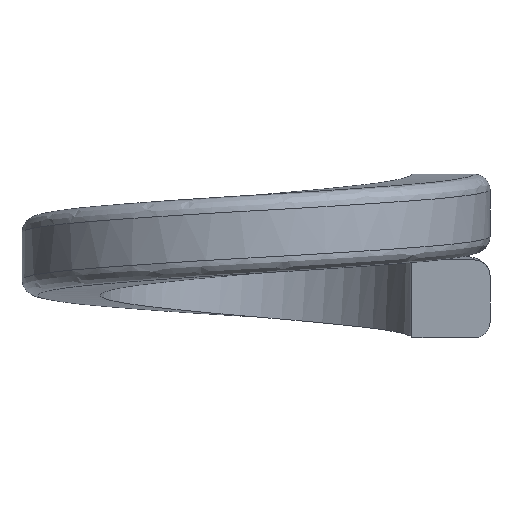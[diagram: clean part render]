
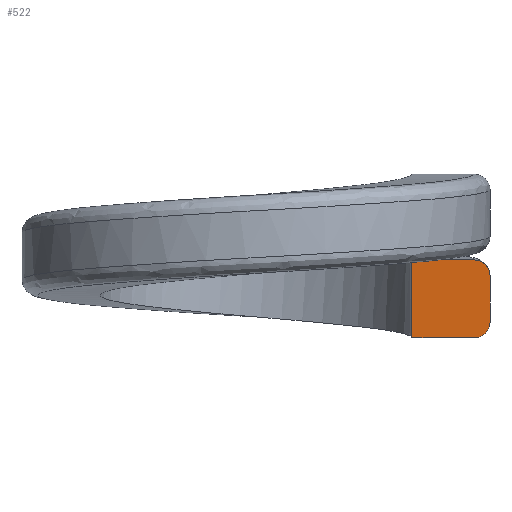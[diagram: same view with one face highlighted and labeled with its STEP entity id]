
A CAD part, top view. The second image highlights one B-rep face of the part: STEP entity #522.
In plain terms, the highlighted planar face has unit normal (0, -0.07, 0.998).
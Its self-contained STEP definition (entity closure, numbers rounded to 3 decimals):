
#89 = PLANE ( 'NONE',  #331 ) ;
#101 = DIRECTION ( 'NONE',  ( 0., 0.998, 0.07 ) ) ;
#116 = CARTESIAN_POINT ( 'NONE',  ( 2.798, -0.596, 0.035 ) ) ;
#122 = EDGE_CURVE ( 'NONE', #530, #1041, #560, .T. ) ;
#163 = VECTOR ( 'NONE', #101, 1000. ) ;
#174 = CARTESIAN_POINT ( 'NONE',  ( 2.798, -1.593, -0.035 ) ) ;
#178 = CARTESIAN_POINT ( 'NONE',  ( 2.85, -1.593, -0.035 ) ) ;
#180 = CARTESIAN_POINT ( 'NONE',  ( 2.902, -1.572, -0.033 ) ) ;
#184 = CARTESIAN_POINT ( 'NONE',  ( 2.976, -1.498, -0.028 ) ) ;
#186 = EDGE_CURVE ( 'NONE', #530, #1064, #218, .T. ) ;
#204 = CARTESIAN_POINT ( 'NONE',  ( 1.998, -0.596, 0.035 ) ) ;
#207 = CARTESIAN_POINT ( 'NONE',  ( 2.998, -1.446, -0.024 ) ) ;
#209 = CARTESIAN_POINT ( 'NONE',  ( 2.998, -1.394, -0.021 ) ) ;
#214 = CARTESIAN_POINT ( 'NONE',  ( 1.998, -1.094, 0. ) ) ;
#218 = LINE ( 'NONE', #222, #1059 ) ;
#220 = DIRECTION ( 'NONE',  ( 1., 0., 0. ) ) ;
#222 = CARTESIAN_POINT ( 'NONE',  ( 2.498, -1.593, -0.035 ) ) ;
#223 = ORIENTED_EDGE ( 'NONE', *, *, #122, .T. ) ;
#232 = CARTESIAN_POINT ( 'NONE',  ( 2.85, -0.596, 0.035 ) ) ;
#234 = DIRECTION ( 'NONE',  ( -1., 0., 0. ) ) ;
#327 = LINE ( 'NONE', #214, #163 ) ;
#331 = AXIS2_PLACEMENT_3D ( 'NONE', #1089, #971, #847 ) ;
#334 = CARTESIAN_POINT ( 'NONE',  ( 2.498, -0.596, 0.035 ) ) ;
#345 = CARTESIAN_POINT ( 'NONE',  ( 2.902, -0.617, 0.034 ) ) ;
#373 = VECTOR ( 'NONE', #220, 1000. ) ;
#446 = LINE ( 'NONE', #334, #373 ) ;
#455 = CARTESIAN_POINT ( 'NONE',  ( 2.976, -0.691, 0.029 ) ) ;
#469 = VECTOR ( 'NONE', #869, 1000. ) ;
#475 = VERTEX_POINT ( 'NONE', #204 ) ;
#522 = ADVANCED_FACE ( 'NONE', ( #695 ), #89, .F. ) ;
#530 = VERTEX_POINT ( 'NONE', #735 ) ;
#558 = ORIENTED_EDGE ( 'NONE', *, *, #630, .F. ) ;
#560 = B_SPLINE_CURVE_WITH_KNOTS ( 'NONE', 3,
 ( #174, #178, #180, #184, #207, #209 ),
 .UNSPECIFIED., .F., .F.,
 ( 4, 2, 4 ),
 ( 0., 0., 0. ),
 .UNSPECIFIED. ) ;
#565 = CARTESIAN_POINT ( 'NONE',  ( 2.998, -0.742, 0.025 ) ) ;
#591 = CARTESIAN_POINT ( 'NONE',  ( 2.998, -1.394, -0.021 ) ) ;
#630 = EDGE_CURVE ( 'NONE', #475, #1094, #446, .T. ) ;
#680 = CARTESIAN_POINT ( 'NONE',  ( 2.998, -0.795, 0.021 ) ) ;
#693 = EDGE_CURVE ( 'NONE', #1092, #1041, #1106, .T. ) ;
#695 = FACE_OUTER_BOUND ( 'NONE', #1061, .T. ) ;
#723 = CARTESIAN_POINT ( 'NONE',  ( 2.798, -0.596, 0.035 ) ) ;
#735 = CARTESIAN_POINT ( 'NONE',  ( 2.798, -1.593, -0.035 ) ) ;
#774 = ORIENTED_EDGE ( 'NONE', *, *, #976, .F. ) ;
#799 = B_SPLINE_CURVE_WITH_KNOTS ( 'NONE', 3,
 ( #680, #565, #455, #345, #232, #116 ),
 .UNSPECIFIED., .F., .F.,
 ( 4, 2, 4 ),
 ( 0., 0., 0. ),
 .UNSPECIFIED. ) ;
#832 = CARTESIAN_POINT ( 'NONE',  ( 2.998, -0.795, 0.021 ) ) ;
#847 = DIRECTION ( 'NONE',  ( 0., 0.998, 0.07 ) ) ;
#869 = DIRECTION ( 'NONE',  ( 0., -0.998, -0.07 ) ) ;
#871 = ORIENTED_EDGE ( 'NONE', *, *, #693, .F. ) ;
#887 = EDGE_CURVE ( 'NONE', #1092, #1094, #799, .T. ) ;
#925 = ORIENTED_EDGE ( 'NONE', *, *, #186, .F. ) ;
#958 = CARTESIAN_POINT ( 'NONE',  ( 1.998, -1.593, -0.035 ) ) ;
#971 = DIRECTION ( 'NONE',  ( 0., 0.07, -0.998 ) ) ;
#976 = EDGE_CURVE ( 'NONE', #1064, #475, #327, .T. ) ;
#991 = CARTESIAN_POINT ( 'NONE',  ( 2.998, -1.094, 0. ) ) ;
#1041 = VERTEX_POINT ( 'NONE', #591 ) ;
#1059 = VECTOR ( 'NONE', #234, 1000. ) ;
#1061 = EDGE_LOOP ( 'NONE', ( #925, #223, #871, #1077, #558, #774 ) ) ;
#1064 = VERTEX_POINT ( 'NONE', #958 ) ;
#1077 = ORIENTED_EDGE ( 'NONE', *, *, #887, .T. ) ;
#1089 = CARTESIAN_POINT ( 'NONE',  ( 1.998, -1.094, 0. ) ) ;
#1092 = VERTEX_POINT ( 'NONE', #832 ) ;
#1094 = VERTEX_POINT ( 'NONE', #723 ) ;
#1106 = LINE ( 'NONE', #991, #469 ) ;
